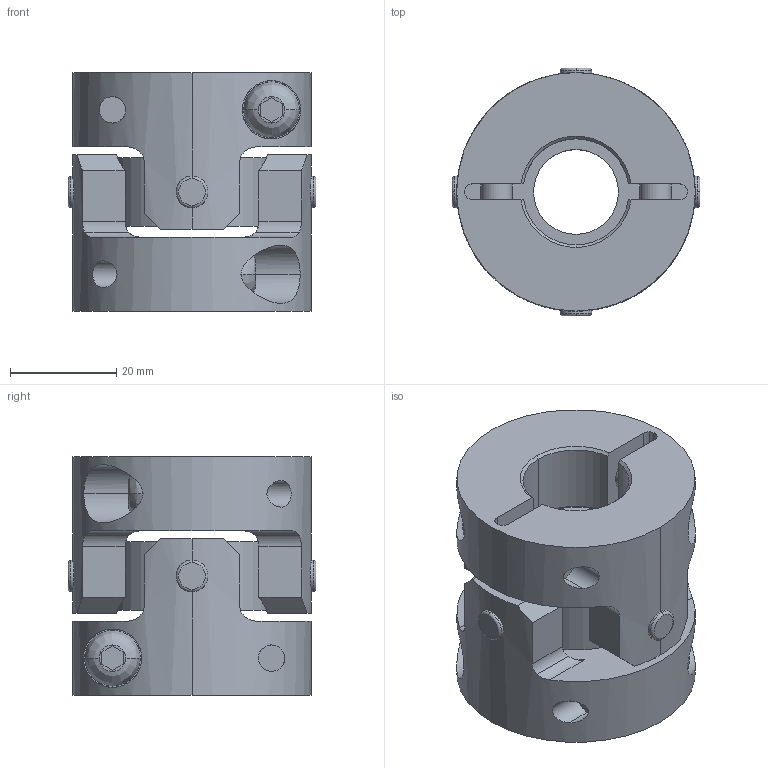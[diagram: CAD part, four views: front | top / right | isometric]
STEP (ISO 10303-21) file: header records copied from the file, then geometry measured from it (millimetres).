
FILE_DESCRIPTION((''),'2;1');
FILE_NAME('UA-45C-17×20.stp','2013-05-22T09:42:06',(''),(''),'AutoCAD STEP 2000i','AutoCAD 2000i',', , ');
FILE_SCHEMA(('CONFIG_CONTROL_DESIGN'));
Length unit declared in the file: millimetre
Products named in the file (8): UA-45C-17×17; 忣兜1; UA-4502-D17-1; BTN-M6; UA-4502-D17; UA-4502-D08-1; UA-4502-D08; UA45-SEN
Assembly tree (10 placements, depth 3):
  UA-45C-17×17
    忣兜1
    UA-4502-D17-1
      BTN-M6
    UA-4502-D17
      BTN-M6
    UA-4502-D08-1
      BTN-M6
    UA-4502-D08
      BTN-M6
    UA45-SEN
Bounding box: 46.73 x 46.73 x 45 mm (x, y, z)
Volume: 47500.2 mm3; surface area: 19293.7 mm2
Topology: 1 solids, 1 shells, 206 faces, 554 edges, 364 vertices
Faces by surface type: cylinder 96, plane 78, cone 16, bspline 8, torus 8
Entity records: 8551 total; most frequent: CARTESIAN_POINT 3195, ORIENTED_EDGE 1108, DIRECTION 1072, EDGE_CURVE 554, AXIS2_PLACEMENT_3D 413, VERTEX_POINT 364, VECTOR 246, LINE 246
